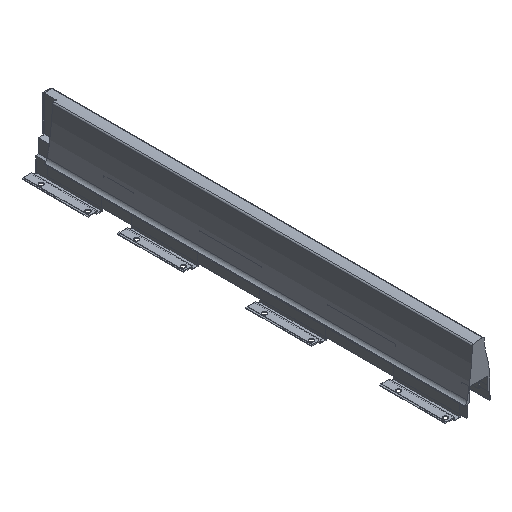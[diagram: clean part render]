
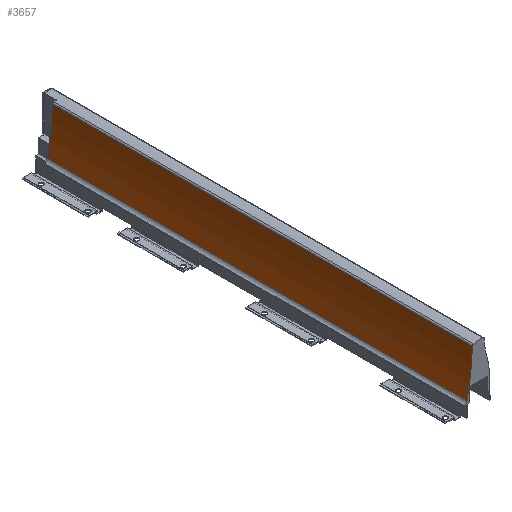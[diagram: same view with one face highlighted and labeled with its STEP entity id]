
A CAD part, isometric view. The second image highlights one B-rep face of the part: STEP entity #3657.
In plain terms, the highlighted cylindrical face has radius 350 mm (diameter 700 mm), a partial arc.
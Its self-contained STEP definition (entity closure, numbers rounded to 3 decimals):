
#271 = DIRECTION ( 'NONE',  ( 1., 0., 0. ) ) ;
#272 = DIRECTION ( 'NONE',  ( 0., -1., 0. ) ) ;
#273 = CARTESIAN_POINT ( 'NONE',  ( -369.736, 590., 58.528 ) ) ;
#1269 = CARTESIAN_POINT ( 'NONE',  ( -369.736, 573.8, 58.528 ) ) ;
#1271 = DIRECTION ( 'NONE',  ( 0., -1., 0. ) ) ;
#1272 = DIRECTION ( 'NONE',  ( -1., 0., 0. ) ) ;
#1461 = CARTESIAN_POINT ( 'NONE',  ( -27.279, 590., -13.745 ) ) ;
#1462 = DIRECTION ( 'NONE',  ( 0., -1., 0. ) ) ;
#1552 = CARTESIAN_POINT ( 'NONE',  ( -19.93, 590., 46.864 ) ) ;
#1553 = DIRECTION ( 'NONE',  ( 0., -1., 0. ) ) ;
#1764 = VERTEX_POINT ( 'NONE', #4617 ) ;
#1765 = VERTEX_POINT ( 'NONE', #4616 ) ;
#1834 = CARTESIAN_POINT ( 'NONE',  ( -369.736, 0., 58.528 ) ) ;
#1836 = VERTEX_POINT ( 'NONE', #4650 ) ;
#1838 = VERTEX_POINT ( 'NONE', #4649 ) ;
#1841 = DIRECTION ( 'NONE',  ( 0., -1., 0. ) ) ;
#1843 = DIRECTION ( 'NONE',  ( -1., 0., 0. ) ) ;
#2255 = FACE_OUTER_BOUND ( 'NONE', #2937, .T. ) ;
#2257 = CYLINDRICAL_SURFACE ( 'NONE', #5102, 350. ) ;
#2937 = EDGE_LOOP ( 'NONE', ( #3391, #3392, #3393, #3394 ) ) ;
#3391 = ORIENTED_EDGE ( 'NONE', *, *, #5010, .F. ) ;
#3392 = ORIENTED_EDGE ( 'NONE', *, *, #5146, .T. ) ;
#3393 = ORIENTED_EDGE ( 'NONE', *, *, #5302, .T. ) ;
#3394 = ORIENTED_EDGE ( 'NONE', *, *, #5201, .F. ) ;
#3657 = ADVANCED_FACE ( 'NONE', ( #2255 ), #2257, .F. ) ;
#4141 = CIRCLE ( 'NONE', #5088, 350. ) ;
#4300 = LINE ( 'NONE', #1461, #4301 ) ;
#4301 = VECTOR ( 'NONE', #1462, 1000. ) ;
#4375 = LINE ( 'NONE', #1552, #4376 ) ;
#4376 = VECTOR ( 'NONE', #1553, 1000. ) ;
#4496 = CIRCLE ( 'NONE', #4864, 350. ) ;
#4616 = CARTESIAN_POINT ( 'NONE',  ( -19.93, 573.8, 46.864 ) ) ;
#4617 = CARTESIAN_POINT ( 'NONE',  ( -27.279, 573.8, -13.745 ) ) ;
#4649 = CARTESIAN_POINT ( 'NONE',  ( -19.93, 0., 46.864 ) ) ;
#4650 = CARTESIAN_POINT ( 'NONE',  ( -27.279, 0., -13.745 ) ) ;
#4864 = AXIS2_PLACEMENT_3D ( 'NONE', #1834, #1841, #1843 ) ;
#5010 = EDGE_CURVE ( 'NONE', #1764, #1765, #4141, .T. ) ;
#5088 = AXIS2_PLACEMENT_3D ( 'NONE', #1269, #1271, #1272 ) ;
#5102 = AXIS2_PLACEMENT_3D ( 'NONE', #273, #272, #271 ) ;
#5146 = EDGE_CURVE ( 'NONE', #1764, #1836, #4300, .T. ) ;
#5201 = EDGE_CURVE ( 'NONE', #1765, #1838, #4375, .T. ) ;
#5302 = EDGE_CURVE ( 'NONE', #1836, #1838, #4496, .T. ) ;
